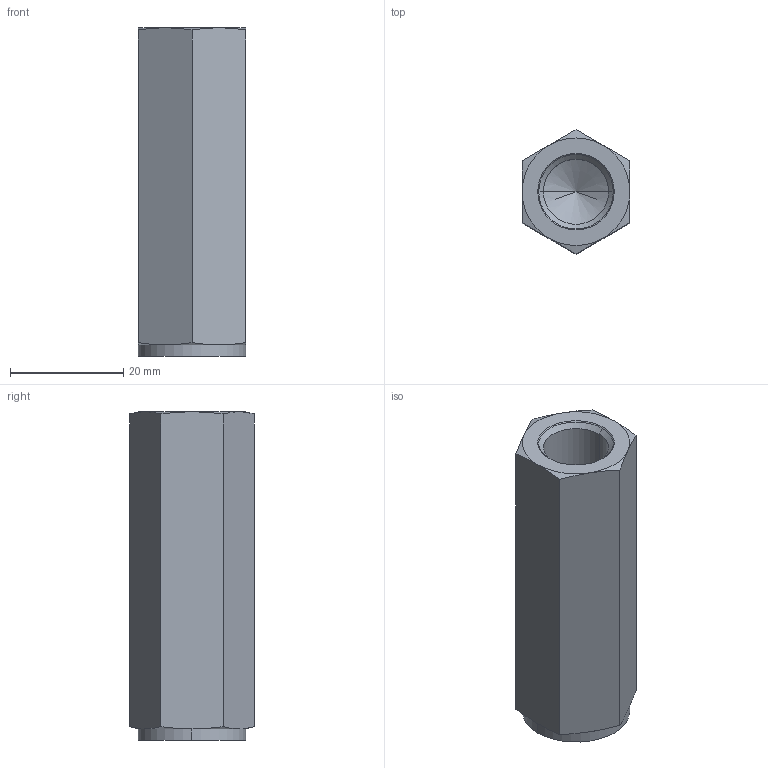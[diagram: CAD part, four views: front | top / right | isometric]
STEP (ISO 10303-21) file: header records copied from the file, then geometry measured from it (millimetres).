
FILE_DESCRIPTION((''),'2;1');
FILE_NAME('VJS3_06_015_G1_100_226738','2022-10-13T',('l.soukupova'),(''),'PRO/ENGINEER BY PARAMETRIC TECHNOLOGY CORPORATION, 2015440','PRO/ENGINEER BY PARAMETRIC TECHNOLOGY CORPORATION, 2015440','');
FILE_SCHEMA(('AUTOMOTIVE_DESIGN { 1 0 10303 214 1 1 1 1 }'));
Length unit declared in the file: millimetre
Products named in the file (1): VJS3_06_015_G1_100_226738
Bounding box: 19 x 21.94 x 58 mm (x, y, z)
Volume: 14683.5 mm3; surface area: 6533 mm2
Topology: 1 solids, 3 shells, 40 faces, 114 edges, 87 vertices
Faces by surface type: cone 20, plane 10, cylinder 10
Entity records: 1911 total; most frequent: CARTESIAN_POINT 453, DIRECTION 212, ORIENTED_EDGE 164, PRESENTATION_STYLE_ASSIGNMENT 122, STYLED_ITEM 122, CURVE_STYLE 119, EDGE_CURVE 86, AXIS2_PLACEMENT_3D 83
